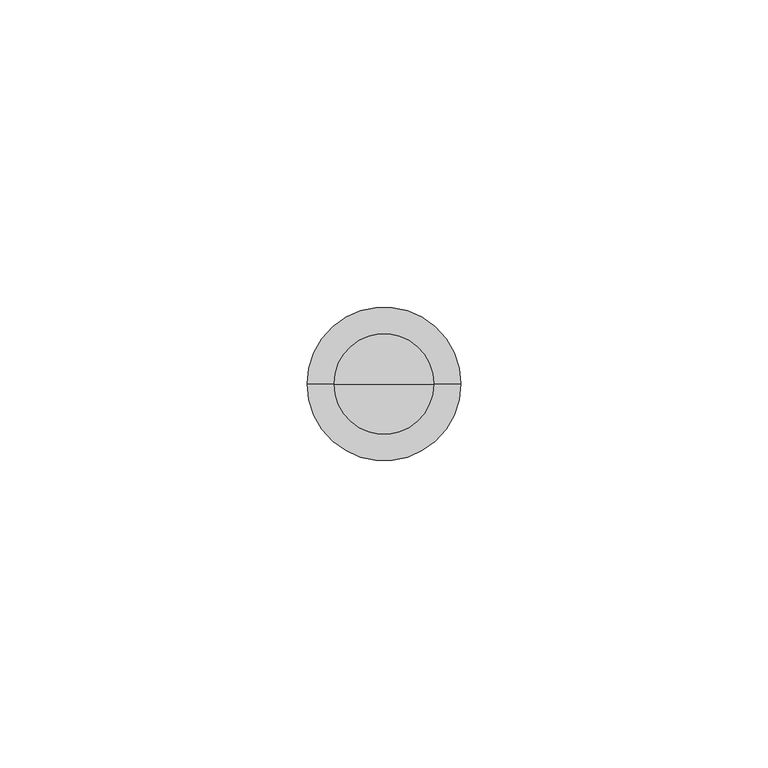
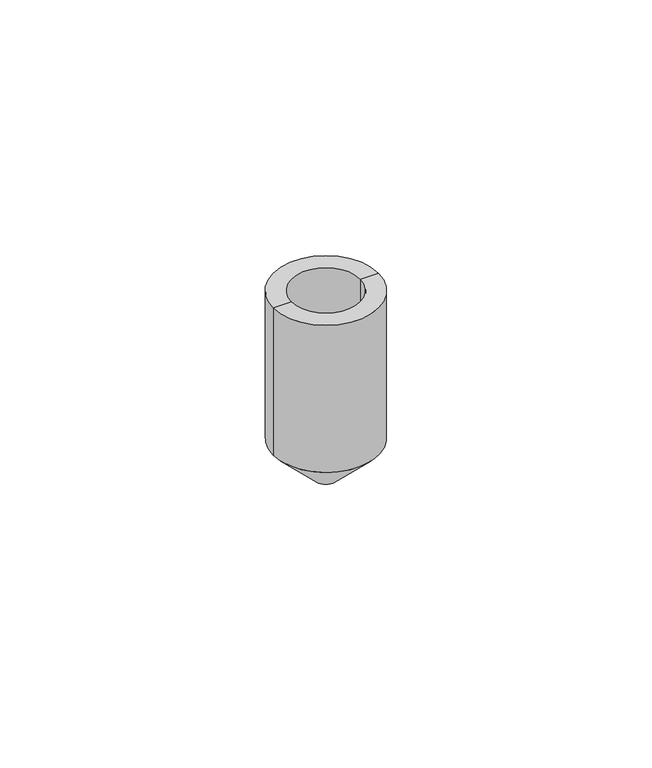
"""IFC4 building model written with IfcOpenShell, lengths in millimetres: proxy geometry, КНС_НаконечникВертикальногоЗаземлителя_DKC : NE1402_Латунь_D16."""

from ifc_helpers import new_model, si_unit, frame, origin, origin_with_axes, place, context, project, spatial, polyline, circle_curve, source, transform, mapped, element, save
from ifc_brep_helpers import plane_surface, cylinder_surface, revolved_surface, advanced_brep


def security_devices_d06509e6(model_context):
    return source(origin(), model_context, "Body", "AdvancedBrep", [
        advanced_brep(
        [(-8.2, 0.0, 24.0), (8.2, 0.0, 24.0), (12.5, 0.0, 24.0), (-12.5, 0.0, 24.0), (-8.2, 0.0, 0.0), (8.2, 0.0, 0.0), (0.0, 0.0, 0.0), (-2.5, 0.0, -23.0), (2.5, 0.0, -23.0), (0.0, 0.0, -23.0), (-12.5, 0.0, -13.0), (12.5, 0.0, -13.0)],
        [
            (0, 1, circle_curve(frame((0.0, 0.0, 24.0), z_axis=(0.0, 0.0, -1.0), x_axis=(1.0, 0.0, 0.0)), 8.2)),
            (1, 2),
            (2, 3, circle_curve(frame((0.0, 0.0, 24.0), z_axis=(0.0, 0.0, 1.0), x_axis=(1.0, 0.0, 0.0)), 12.5)),
            (3, 0),
            (1, 0, circle_curve(frame((0.0, 0.0, 24.0), z_axis=(0.0, 0.0, -1.0), x_axis=(1.0, 0.0, 0.0)), 8.2)),
            (3, 2, circle_curve(frame((0.0, 0.0, 24.0), z_axis=(0.0, 0.0, 1.0), x_axis=(1.0, 0.0, 0.0)), 12.5)),
            (4, 5, circle_curve(frame((0.0, 0.0, 0.0), z_axis=(0.0, 0.0, -1.0), x_axis=(1.0, 0.0, 0.0)), 8.2)),
            (5, 1),
            (0, 4),
            (5, 4, circle_curve(frame((0.0, 0.0, 0.0), z_axis=(0.0, 0.0, -1.0), x_axis=(1.0, 0.0, 0.0)), 8.2)),
            (6, 5),
            (4, 6),
            (7, 8, circle_curve(frame((0.0, 0.0, -23.0), z_axis=(0.0, 0.0, -1.0), x_axis=(1.0, 0.0, 0.0)), 2.5)),
            (8, 9),
            (9, 7),
            (8, 7, circle_curve(frame((0.0, 0.0, -23.0), z_axis=(0.0, 0.0, -1.0), x_axis=(1.0, 0.0, 0.0)), 2.5)),
            (10, 11, circle_curve(frame((0.0, 0.0, -13.0), z_axis=(0.0, 0.0, -1.0), x_axis=(1.0, 0.0, 0.0)), 12.5)),
            (11, 8),
            (7, 10),
            (11, 10, circle_curve(frame((0.0, 0.0, -13.0), z_axis=(0.0, 0.0, -1.0), x_axis=(1.0, 0.0, 0.0)), 12.5)),
            (2, 11),
            (10, 3),
        ],
        [
            plane_surface(frame((0.0, 0.0, 24.0), z_axis=(0.0, 0.0, 1.0), x_axis=(1.0, 0.0, 0.0))),
            revolved_surface(polyline([(8.2, 0.0, 24.0), (8.2, 0.0, 0.0)]), (0.0, 0.0, 2214.3150031), (0.0, 0.0, 1.0)),
            plane_surface(origin_with_axes()),
            plane_surface(frame((0.0, 0.0, -23.0), z_axis=(0.0, 0.0, -1.0), x_axis=(1.0, 0.0, 0.0))),
            revolved_surface(polyline([(2.5, 0.0, -23.0), (12.5, 0.0, -13.0)]), (0.0, 0.0, 2214.3150031), (0.0, 0.0, 1.0)),
            cylinder_surface(frame((0.0, 0.0, 2214.3150031), z_axis=(0.0, 0.0, 1.0), x_axis=(1.0, 0.0, 0.0)), 12.5),
        ],
        [
            (0, [[1, 2, 3, 4]]),
            (0, [[5, -4, 6, -2]]),
            (1, [[7, 8, -1, 9]]),
            (1, [[10, -9, -5, -8]]),
            (2, [[11, -7, 12]]),
            (2, [[-12, -10, -11]]),
            (3, [[13, 14, 15]]),
            (3, [[16, -15, -14]]),
            (4, [[17, 18, -13, 19]]),
            (4, [[20, -19, -16, -18]]),
            (5, [[-3, 21, -17, 22]]),
            (5, [[-6, -22, -20, -21]]),
        ],
    ),
    ])


if __name__ == "__main__":
    model = new_model("IFC4")
    model_context = context("Model", 3, world=origin())
    ifc_project = project(units=[si_unit("LENGTHUNIT", "METRE", prefix="MILLI")], contexts=[model_context])
    site = spatial("IfcSite", under=ifc_project)
    building = spatial("IfcBuilding", under=site)
    placement = place(None, origin())
    security_devices_shape = security_devices_d06509e6(model_context)
    element("IfcBuildingElementProxy", 1, Name="КНС_НаконечникВертикальногоЗаземлителя_DKC : NE1402_Латунь_D16", ObjectType="КНС_НаконечникВертикальногоЗаземлителя_DKC : NE1402_Латунь_D16", at=placement, inside=building, context=model_context, shape_type="MappedRepresentation", body=[
        mapped(security_devices_shape, transform((0.0, 0.0, 0.0), x_axis=(1.0, 0.0, 0.0), y_axis=(0.0, 1.0, 0.0), z_axis=(0.0, 0.0, 1.0))),
    ])
    save(model, "model.ifc")
